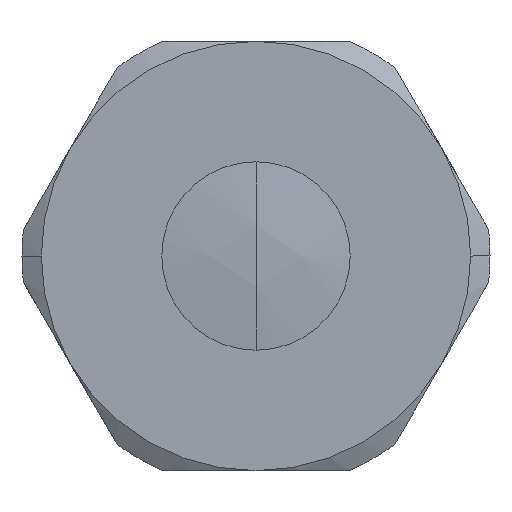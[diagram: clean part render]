
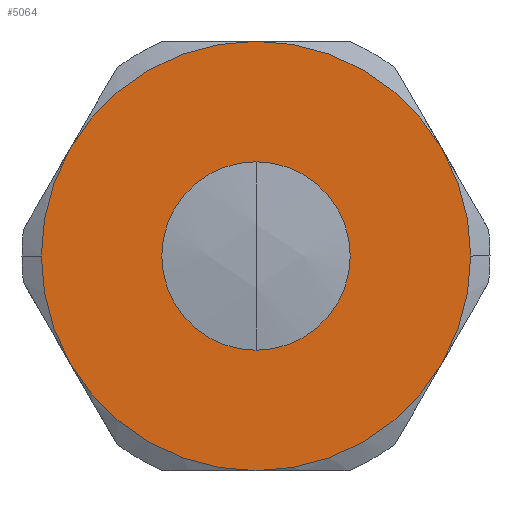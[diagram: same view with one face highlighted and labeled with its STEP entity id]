
A CAD part, left-side view. The second image highlights one B-rep face of the part: STEP entity #5064.
In plain terms, the highlighted planar face has unit normal (-1, 0, 0).
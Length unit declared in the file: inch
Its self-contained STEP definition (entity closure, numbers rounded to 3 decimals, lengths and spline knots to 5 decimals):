
#973=CARTESIAN_POINT('',(0.,0.2195,2.0));
#974=VERTEX_POINT('',#973);
#981=CARTESIAN_POINT('',(0.,-0.2195,2.0));
#982=VERTEX_POINT('',#981);
#983=CARTESIAN_POINT('',(0.,0.,2.0));
#984=DIRECTION('',(1.0,0.0,0.0));
#985=DIRECTION('',(0.0,1.0,0.0));
#986=AXIS2_PLACEMENT_3D('',#983,#984,#985);
#987=CIRCLE('',#986,0.2195);
#988=EDGE_CURVE('',#982,#974,#987,.T.);
#1014=CARTESIAN_POINT('',(0.,-0.5,2.0));
#1015=VERTEX_POINT('',#1014);
#1024=CARTESIAN_POINT('',(0.,-0.43301,1.75));
#1025=VERTEX_POINT('',#1024);
#1026=CARTESIAN_POINT('',(0.,0.,2.0));
#1027=DIRECTION('',(-1.0,0.0,0.0));
#1028=DIRECTION('',(0.0,1.0,0.0));
#1029=AXIS2_PLACEMENT_3D('',#1026,#1027,#1028);
#1030=CIRCLE('',#1029,0.5);
#1031=EDGE_CURVE('',#1025,#1015,#1030,.T.);
#1065=CARTESIAN_POINT('',(0.,0.5,2.));
#1066=VERTEX_POINT('',#1065);
#1082=CARTESIAN_POINT('',(0.,0.43301,1.75));
#1083=VERTEX_POINT('',#1082);
#1097=CARTESIAN_POINT('',(0.,0.,2.0));
#1098=DIRECTION('',(-1.0,0.0,0.0));
#1099=DIRECTION('',(0.0,1.0,0.0));
#1100=AXIS2_PLACEMENT_3D('',#1097,#1098,#1099);
#1101=CIRCLE('',#1100,0.5);
#1102=EDGE_CURVE('',#1066,#1083,#1101,.T.);
#4506=CARTESIAN_POINT('',(0.,-0.43301,2.25));
#4507=VERTEX_POINT('',#4506);
#4646=CARTESIAN_POINT('',(0.,0.,1.5));
#4647=VERTEX_POINT('',#4646);
#4789=CARTESIAN_POINT('',(0.,0.,2.5));
#4790=VERTEX_POINT('',#4789);
#4833=CARTESIAN_POINT('',(0.,0.43301,2.25));
#4834=VERTEX_POINT('',#4833);
#4933=CARTESIAN_POINT('',(0.,0.,2.0));
#4934=DIRECTION('',(-1.0,0.0,0.0));
#4935=DIRECTION('',(0.0,1.0,0.0));
#4936=AXIS2_PLACEMENT_3D('',#4933,#4934,#4935);
#4937=CIRCLE('',#4936,0.5);
#4938=EDGE_CURVE('',#4507,#4790,#4937,.T.);
#4952=CARTESIAN_POINT('',(0.,0.,2.0));
#4953=DIRECTION('',(-1.0,0.0,0.0));
#4954=DIRECTION('',(0.0,1.0,0.0));
#4955=AXIS2_PLACEMENT_3D('',#4952,#4953,#4954);
#4956=CIRCLE('',#4955,0.5);
#4957=EDGE_CURVE('',#4790,#4834,#4956,.T.);
#4971=CARTESIAN_POINT('',(0.,0.,2.0));
#4972=DIRECTION('',(-1.0,0.0,0.0));
#4973=DIRECTION('',(0.0,1.0,0.0));
#4974=AXIS2_PLACEMENT_3D('',#4971,#4972,#4973);
#4975=CIRCLE('',#4974,0.5);
#4976=EDGE_CURVE('',#4834,#1066,#4975,.T.);
#4992=CARTESIAN_POINT('',(0.,0.,2.0));
#4993=DIRECTION('',(-1.0,0.0,0.0));
#4994=DIRECTION('',(0.0,1.0,0.0));
#4995=AXIS2_PLACEMENT_3D('',#4992,#4993,#4994);
#4996=CIRCLE('',#4995,0.5);
#4997=EDGE_CURVE('',#1083,#4647,#4996,.T.);
#5011=CARTESIAN_POINT('',(0.,0.,2.0));
#5012=DIRECTION('',(-1.0,0.0,0.0));
#5013=DIRECTION('',(0.0,1.0,0.0));
#5014=AXIS2_PLACEMENT_3D('',#5011,#5012,#5013);
#5015=CIRCLE('',#5014,0.5);
#5016=EDGE_CURVE('',#4647,#1025,#5015,.T.);
#5029=CARTESIAN_POINT('',(0.,0.,2.0));
#5030=DIRECTION('',(-1.0,0.0,0.0));
#5031=DIRECTION('',(0.0,1.0,0.0));
#5032=AXIS2_PLACEMENT_3D('',#5029,#5030,#5031);
#5033=CIRCLE('',#5032,0.5);
#5034=EDGE_CURVE('',#1015,#4507,#5033,.T.);
#5039=CARTESIAN_POINT('',(0.,0.,2.));
#5040=DIRECTION('',(1.0,0.0,0.0));
#5041=DIRECTION('',(0.0,0.0,-1.0));
#5042=AXIS2_PLACEMENT_3D('',#5039,#5040,#5041);
#5043=PLANE('',#5042);
#5044=ORIENTED_EDGE('',*,*,#4938,.T.);
#5045=ORIENTED_EDGE('',*,*,#4957,.T.);
#5046=ORIENTED_EDGE('',*,*,#4976,.T.);
#5047=ORIENTED_EDGE('',*,*,#1102,.T.);
#5048=ORIENTED_EDGE('',*,*,#4997,.T.);
#5049=ORIENTED_EDGE('',*,*,#5016,.T.);
#5050=ORIENTED_EDGE('',*,*,#1031,.T.);
#5051=ORIENTED_EDGE('',*,*,#5034,.T.);
#5052=EDGE_LOOP('',(#5044,#5045,#5046,#5047,#5048,#5049,#5050,#5051));
#5053=FACE_OUTER_BOUND('',#5052,.T.);
#5054=CARTESIAN_POINT('',(0.,0.,2.0));
#5055=DIRECTION('',(1.0,0.0,0.0));
#5056=DIRECTION('',(0.0,1.0,0.0));
#5057=AXIS2_PLACEMENT_3D('',#5054,#5055,#5056);
#5058=CIRCLE('',#5057,0.2195);
#5059=EDGE_CURVE('',#974,#982,#5058,.T.);
#5060=ORIENTED_EDGE('',*,*,#5059,.T.);
#5061=ORIENTED_EDGE('',*,*,#988,.T.);
#5062=EDGE_LOOP('',(#5060,#5061));
#5063=FACE_BOUND('',#5062,.T.);
#5064=ADVANCED_FACE('',(#5053,#5063),#5043,.F.);
